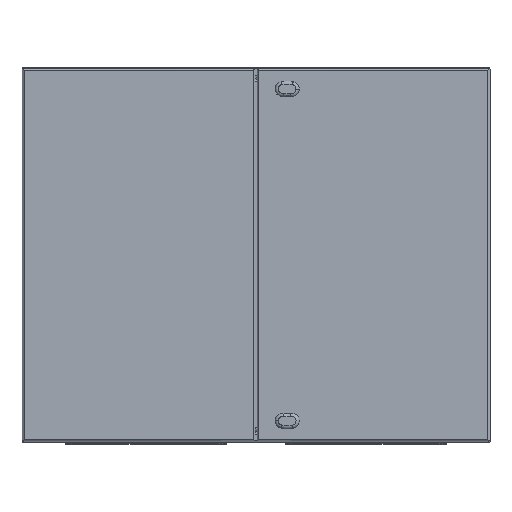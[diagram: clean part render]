
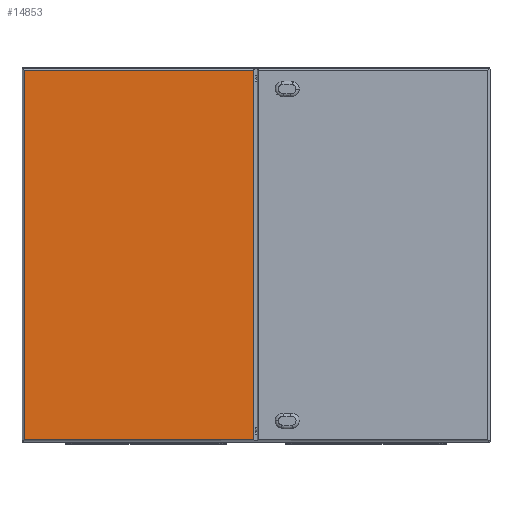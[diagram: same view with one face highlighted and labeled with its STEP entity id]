
A CAD part, top view. The second image highlights one B-rep face of the part: STEP entity #14853.
In plain terms, the highlighted planar face has unit normal (0, 0, 1) as drawn and (0, 0, -1) by its records, which use the part's own axes.
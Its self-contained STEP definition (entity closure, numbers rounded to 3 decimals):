
#66 = DIRECTION ( 'NONE',  ( 0., 0., -1. ) ) ;
#841 = CARTESIAN_POINT ( 'NONE',  ( -245., -395., 0. ) ) ;
#2072 = VECTOR ( 'NONE', #25245, 1000. ) ;
#2475 = PLANE ( 'NONE',  #21426 ) ;
#2990 = DIRECTION ( 'NONE',  ( -1., 0., 0. ) ) ;
#3679 = CARTESIAN_POINT ( 'NONE',  ( -245., 397.5, 0. ) ) ;
#6432 = ORIENTED_EDGE ( 'NONE', *, *, #31116, .T. ) ;
#6656 = ORIENTED_EDGE ( 'NONE', *, *, #26445, .T. ) ;
#7395 = VECTOR ( 'NONE', #32664, 1000. ) ;
#8929 = LINE ( 'NONE', #14404, #17147 ) ;
#10548 = VERTEX_POINT ( 'NONE', #23445 ) ;
#11555 = ORIENTED_EDGE ( 'NONE', *, *, #21141, .T. ) ;
#11774 = LINE ( 'NONE', #22224, #7395 ) ;
#12211 = EDGE_LOOP ( 'NONE', ( #6656, #6432, #21469, #11555 ) ) ;
#13034 = CARTESIAN_POINT ( 'NONE',  ( -247.5, -395., 0. ) ) ;
#14404 = CARTESIAN_POINT ( 'NONE',  ( 245., -397.5, 0. ) ) ;
#14853 = ADVANCED_FACE ( 'NONE', ( #28843 ), #2475, .T. ) ;
#17147 = VECTOR ( 'NONE', #19371, 1000. ) ;
#18246 = VERTEX_POINT ( 'NONE', #841 ) ;
#18565 = CARTESIAN_POINT ( 'NONE',  ( 247.5, 397.5, 0. ) ) ;
#18773 = CARTESIAN_POINT ( 'NONE',  ( 245., -395., 0. ) ) ;
#19371 = DIRECTION ( 'NONE',  ( 0., -1., 0. ) ) ;
#19756 = LINE ( 'NONE', #13034, #2072 ) ;
#20598 = VECTOR ( 'NONE', #32626, 1000. ) ;
#21141 = EDGE_CURVE ( 'NONE', #24843, #18246, #19756, .T. ) ;
#21426 = AXIS2_PLACEMENT_3D ( 'NONE', #18565, #66, #2990 ) ;
#21469 = ORIENTED_EDGE ( 'NONE', *, *, #29931, .T. ) ;
#21716 = VERTEX_POINT ( 'NONE', #23615 ) ;
#22224 = CARTESIAN_POINT ( 'NONE',  ( 247.5, 395., 0. ) ) ;
#23445 = CARTESIAN_POINT ( 'NONE',  ( -245., 395., 0. ) ) ;
#23615 = CARTESIAN_POINT ( 'NONE',  ( 245., 395., 0. ) ) ;
#24843 = VERTEX_POINT ( 'NONE', #18773 ) ;
#25245 = DIRECTION ( 'NONE',  ( -1., 0., 0. ) ) ;
#26445 = EDGE_CURVE ( 'NONE', #18246, #10548, #30226, .T. ) ;
#28843 = FACE_OUTER_BOUND ( 'NONE', #12211, .T. ) ;
#29931 = EDGE_CURVE ( 'NONE', #21716, #24843, #8929, .T. ) ;
#30226 = LINE ( 'NONE', #3679, #20598 ) ;
#31116 = EDGE_CURVE ( 'NONE', #10548, #21716, #11774, .T. ) ;
#32626 = DIRECTION ( 'NONE',  ( 0., 1., 0. ) ) ;
#32664 = DIRECTION ( 'NONE',  ( 1., 0., 0. ) ) ;
